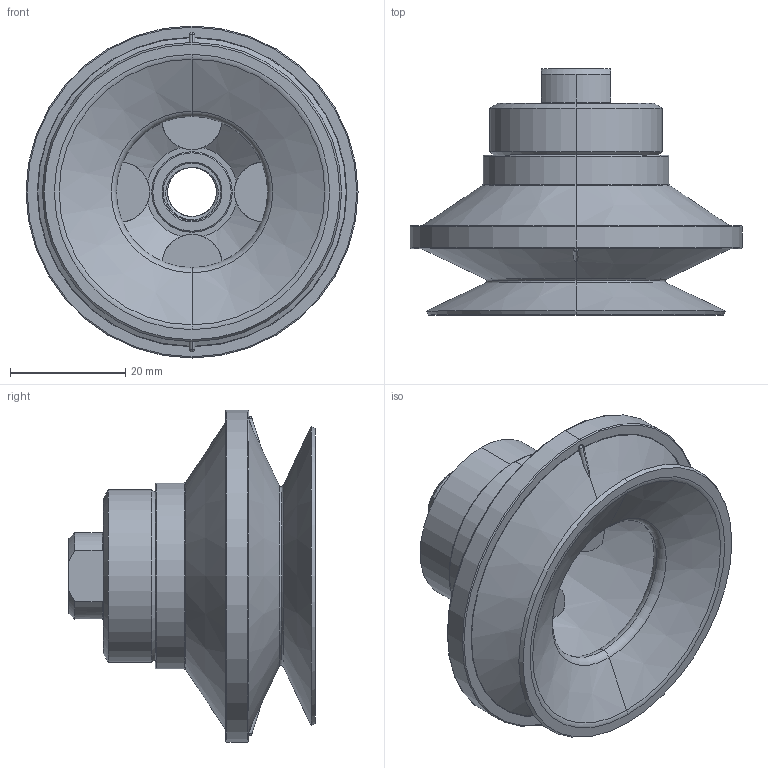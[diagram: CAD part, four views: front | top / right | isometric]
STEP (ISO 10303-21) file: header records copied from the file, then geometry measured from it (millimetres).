
FILE_DESCRIPTION (( 'STEP AP214' ), '1' );
FILE_NAME ('91 50-- 18 .step', '2024-12-12T16:14:48', ( '' ), ( '' ), 'SwSTEP 2.0', 'SolidWorks 2021', '' );
FILE_SCHEMA (( 'AUTOMOTIVE_DESIGN' ));
Length unit declared in the file: millimetre
Products named in the file (1): 91 50-- 18  
Bounding box: 57.68 x 42.79 x 57.68 mm (x, y, z)
Volume: 21396.4 mm3; surface area: 19814.8 mm2
Topology: 3 solids, 3 shells, 182 faces, 415 edges, 251 vertices
Faces by surface type: cylinder 70, torus 49, cone 29, plane 28, sphere 4, bspline 2
Entity records: 8536 total; most frequent: CARTESIAN_POINT 4374, DIRECTION 928, ORIENTED_EDGE 830, EDGE_CURVE 415, AXIS2_PLACEMENT_3D 411, VERTEX_POINT 251, CIRCLE 230, EDGE_LOOP 200
